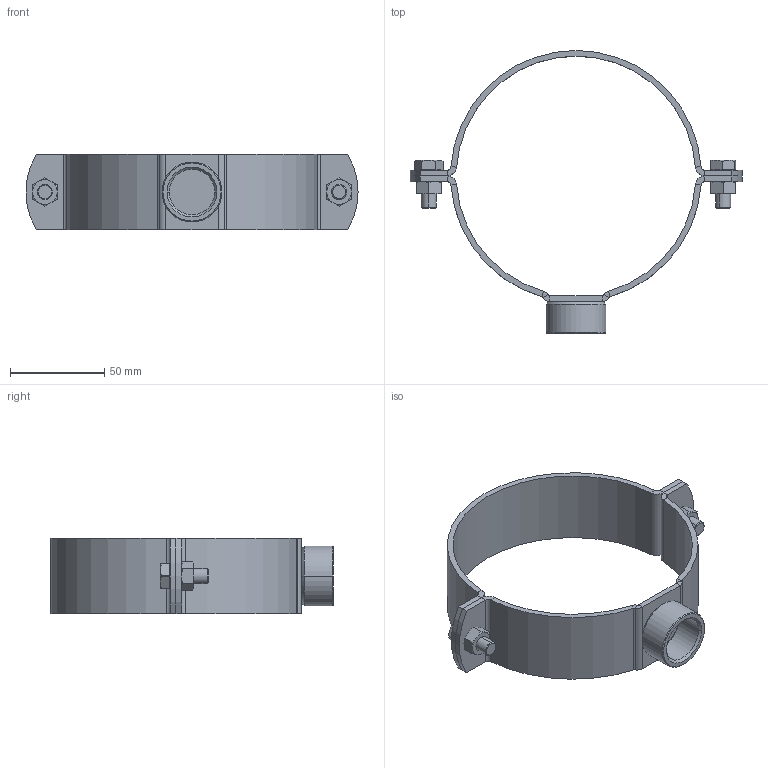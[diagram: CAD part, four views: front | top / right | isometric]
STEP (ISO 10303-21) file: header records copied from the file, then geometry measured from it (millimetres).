
FILE_DESCRIPTION (( 'STEP AP203' ), '1' );
FILE_NAME ('51.837.STEP', '2019-11-21T16:15:32', ( '' ), ( '' ), 'SwSTEP 2.0', 'SolidWorks 2019', '' );
FILE_SCHEMA (( 'CONFIG_CONTROL_DESIGN' ));
Length unit declared in the file: millimetre
Products named in the file (7): 1000003486; 51.837; 1000003377_08 - Gr. 128-131 - H-17110.008; 1000003263_E-10254.002-Inox V4A (1.4404); 1000003381_08 - Gr. 128-131 - H-17111.608; 1000003366_08 - Gr. 128-131 - H-17109.008; 1000003484
Assembly tree (8 placements, depth 3):
  51.837
    1000003381_08 - Gr. 128-131 - H-17111.608
      1000003377_08 - Gr. 128-131 - H-17110.008
      1000003263_E-10254.002-Inox V4A (1.4404)
    1000003366_08 - Gr. 128-131 - H-17109.008
    1000003484  x2
    1000003486  x2
Bounding box: 176 x 150 x 40 mm (x, y, z)
Volume: 67717.8 mm3; surface area: 48555.5 mm2
Topology: 7 solids, 7 shells, 214 faces, 462 edges, 264 vertices
Faces by surface type: plane 90, cylinder 62, cone 62
Entity records: 4974 total; most frequent: CARTESIAN_POINT 861, DIRECTION 757, ORIENTED_EDGE 650, EDGE_CURVE 325, AXIS2_PLACEMENT_3D 304, VERTEX_POINT 184, EDGE_LOOP 165, ADVANCED_FACE 152
